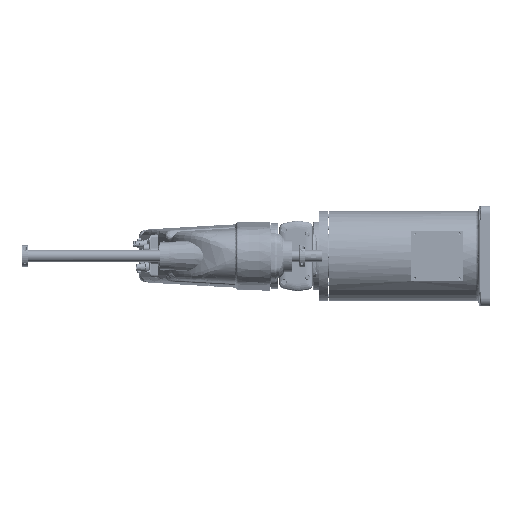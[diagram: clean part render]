
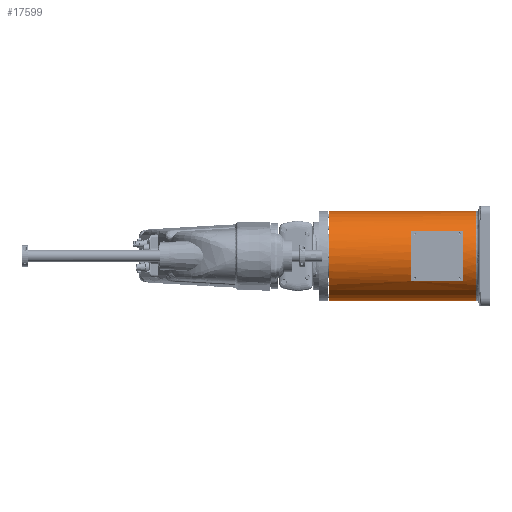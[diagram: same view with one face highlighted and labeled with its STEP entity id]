
A CAD part, left-side view. The second image highlights one B-rep face of the part: STEP entity #17599.
In plain terms, the highlighted cylindrical face has radius 80 mm (diameter 160 mm), a partial arc.
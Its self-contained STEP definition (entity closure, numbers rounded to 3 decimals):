
#17599 = ADVANCED_FACE ( 'NONE', ( #176346, #176350 ), #176353, .T. ) ;
#24060 = CARTESIAN_POINT ( 'NONE',  ( 0., -245.5, 0. ) ) ;
#24061 = DIRECTION ( 'NONE',  ( 0., -1., 0. ) ) ;
#24062 = DIRECTION ( 'NONE',  ( 0., 0., -1. ) ) ;
#24063 = CARTESIAN_POINT ( 'NONE',  ( 0., -268., 0. ) ) ;
#24064 = DIRECTION ( 'NONE',  ( 0., 1., 0. ) ) ;
#24065 = DIRECTION ( 'NONE',  ( 0., 0., -1. ) ) ;
#24070 = CARTESIAN_POINT ( 'NONE',  ( 0., -6.5, 0. ) ) ;
#24071 = DIRECTION ( 'NONE',  ( 0., -1., 0. ) ) ;
#24072 = DIRECTION ( 'NONE',  ( 0., 0., -1. ) ) ;
#24075 = CARTESIAN_POINT ( 'NONE',  ( 0., -152.5, 0. ) ) ;
#24076 = DIRECTION ( 'NONE',  ( 0., 1., 0. ) ) ;
#24077 = DIRECTION ( 'NONE',  ( 0., 0., -1. ) ) ;
#24078 = CARTESIAN_POINT ( 'NONE',  ( -66., -203., -45.211 ) ) ;
#24079 = DIRECTION ( 'NONE',  ( 0., 1., 0. ) ) ;
#24080 = CARTESIAN_POINT ( 'NONE',  ( -66., 8.4, 45.211 ) ) ;
#24081 = DIRECTION ( 'NONE',  ( 0., -1., 0. ) ) ;
#42843 = CARTESIAN_POINT ( 'NONE',  ( -66., -245.5, 45.211 ) ) ;
#42846 = CARTESIAN_POINT ( 'NONE',  ( -66., -245.5, -45.211 ) ) ;
#42854 = CARTESIAN_POINT ( 'NONE',  ( -66., -152.5, -45.211 ) ) ;
#42860 = CARTESIAN_POINT ( 'NONE',  ( -66., -152.5, 45.211 ) ) ;
#46357 = VERTEX_POINT ( 'NONE', #167438 ) ;
#46359 = VERTEX_POINT ( 'NONE', #167441 ) ;
#46371 = VERTEX_POINT ( 'NONE', #167457 ) ;
#53478 = EDGE_LOOP ( 'NONE', ( #199466, #199470, #199475, #199479, #199483 ) ) ;
#53479 = EDGE_LOOP ( 'NONE', ( #199487, #199490, #199496, #199500 ) ) ;
#59467 = CARTESIAN_POINT ( 'NONE',  ( 0., 8.4, 0. ) ) ;
#59468 = DIRECTION ( 'NONE',  ( 0., -1., 0. ) ) ;
#59469 = DIRECTION ( 'NONE',  ( 0., 0., -1. ) ) ;
#63214 = EDGE_CURVE ( 'NONE', #87878, #87879, #147368, .T. ) ;
#63217 = EDGE_CURVE ( 'NONE', #46371, #258506, #147375, .T. ) ;
#63229 = EDGE_CURVE ( 'NONE', #46359, #46357, #147390, .T. ) ;
#63236 = EDGE_CURVE ( 'NONE', #87885, #87889, #147401, .T. ) ;
#63239 = EDGE_CURVE ( 'NONE', #87879, #87885, #147398, .T. ) ;
#63242 = EDGE_CURVE ( 'NONE', #87889, #87878, #147405, .T. ) ;
#87878 = VERTEX_POINT ( 'NONE', #42843 ) ;
#87879 = VERTEX_POINT ( 'NONE', #42846 ) ;
#87885 = VERTEX_POINT ( 'NONE', #42854 ) ;
#87889 = VERTEX_POINT ( 'NONE', #42860 ) ;
#107960 = EDGE_CURVE ( 'NONE', #258506, #258510, #254972, .T. ) ;
#108182 = EDGE_CURVE ( 'NONE', #46359, #258510, #255550, .T. ) ;
#108196 = EDGE_CURVE ( 'NONE', #46357, #46371, #255593, .T. ) ;
#108513 = AXIS2_PLACEMENT_3D ( 'NONE', #59467, #59468, #59469 ) ;
#109040 = AXIS2_PLACEMENT_3D ( 'NONE', #24060, #24061, #24062 ) ;
#109041 = AXIS2_PLACEMENT_3D ( 'NONE', #24063, #24064, #24065 ) ;
#109042 = AXIS2_PLACEMENT_3D ( 'NONE', #24070, #24071, #24072 ) ;
#109043 = AXIS2_PLACEMENT_3D ( 'NONE', #24075, #24076, #24077 ) ;
#111993 = CARTESIAN_POINT ( 'NONE',  ( 0., -268., 0. ) ) ;
#111995 = DIRECTION ( 'NONE',  ( 0., 1., 0. ) ) ;
#111997 = DIRECTION ( 'NONE',  ( 0., 0., -1. ) ) ;
#125161 = CARTESIAN_POINT ( 'NONE',  ( 0., 8.4, 80. ) ) ;
#125163 = DIRECTION ( 'NONE',  ( 0., -1., 0. ) ) ;
#125251 = CARTESIAN_POINT ( 'NONE',  ( 0., 8.4, -80. ) ) ;
#125253 = DIRECTION ( 'NONE',  ( 0., -1., 0. ) ) ;
#147368 = CIRCLE ( 'NONE', #109040, 80. ) ;
#147375 = CIRCLE ( 'NONE', #109041, 80. ) ;
#147390 = CIRCLE ( 'NONE', #109042, 80. ) ;
#147398 = LINE ( 'NONE', #24078, #147403 ) ;
#147401 = CIRCLE ( 'NONE', #109043, 80. ) ;
#147403 = VECTOR ( 'NONE', #24079, 1000. ) ;
#147405 = LINE ( 'NONE', #24080, #147407 ) ;
#147407 = VECTOR ( 'NONE', #24081, 1000. ) ;
#167438 = CARTESIAN_POINT ( 'NONE',  ( 0., -6.5, -80. ) ) ;
#167441 = CARTESIAN_POINT ( 'NONE',  ( 0., -6.5, 80. ) ) ;
#167457 = CARTESIAN_POINT ( 'NONE',  ( 0., -268., -80. ) ) ;
#176346 = FACE_OUTER_BOUND ( 'NONE', #53478, .T. ) ;
#176350 = FACE_BOUND ( 'NONE', #53479, .T. ) ;
#176353 = CYLINDRICAL_SURFACE ( 'NONE', #108513, 80. ) ;
#199466 = ORIENTED_EDGE ( 'NONE', *, *, #108182, .F. ) ;
#199470 = ORIENTED_EDGE ( 'NONE', *, *, #63229, .T. ) ;
#199475 = ORIENTED_EDGE ( 'NONE', *, *, #108196, .T. ) ;
#199479 = ORIENTED_EDGE ( 'NONE', *, *, #63217, .T. ) ;
#199483 = ORIENTED_EDGE ( 'NONE', *, *, #107960, .T. ) ;
#199487 = ORIENTED_EDGE ( 'NONE', *, *, #63236, .T. ) ;
#199490 = ORIENTED_EDGE ( 'NONE', *, *, #63242, .T. ) ;
#199496 = ORIENTED_EDGE ( 'NONE', *, *, #63214, .T. ) ;
#199500 = ORIENTED_EDGE ( 'NONE', *, *, #63239, .T. ) ;
#213116 = AXIS2_PLACEMENT_3D ( 'NONE', #111993, #111995, #111997 ) ;
#233235 = CARTESIAN_POINT ( 'NONE',  ( -79.995, -268., -0.878 ) ) ;
#233236 = CARTESIAN_POINT ( 'NONE',  ( 0., -268., 80. ) ) ;
#254972 = CIRCLE ( 'NONE', #213116, 80. ) ;
#255550 = LINE ( 'NONE', #125161, #255557 ) ;
#255557 = VECTOR ( 'NONE', #125163, 1000. ) ;
#255593 = LINE ( 'NONE', #125251, #255600 ) ;
#255600 = VECTOR ( 'NONE', #125253, 1000. ) ;
#258506 = VERTEX_POINT ( 'NONE', #233235 ) ;
#258510 = VERTEX_POINT ( 'NONE', #233236 ) ;
